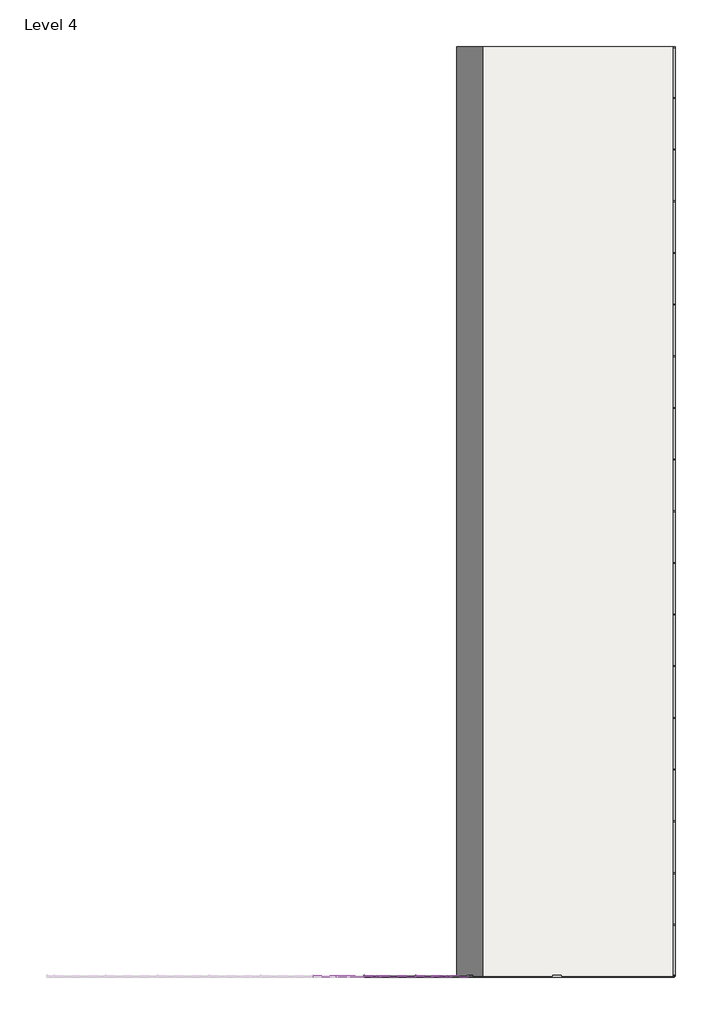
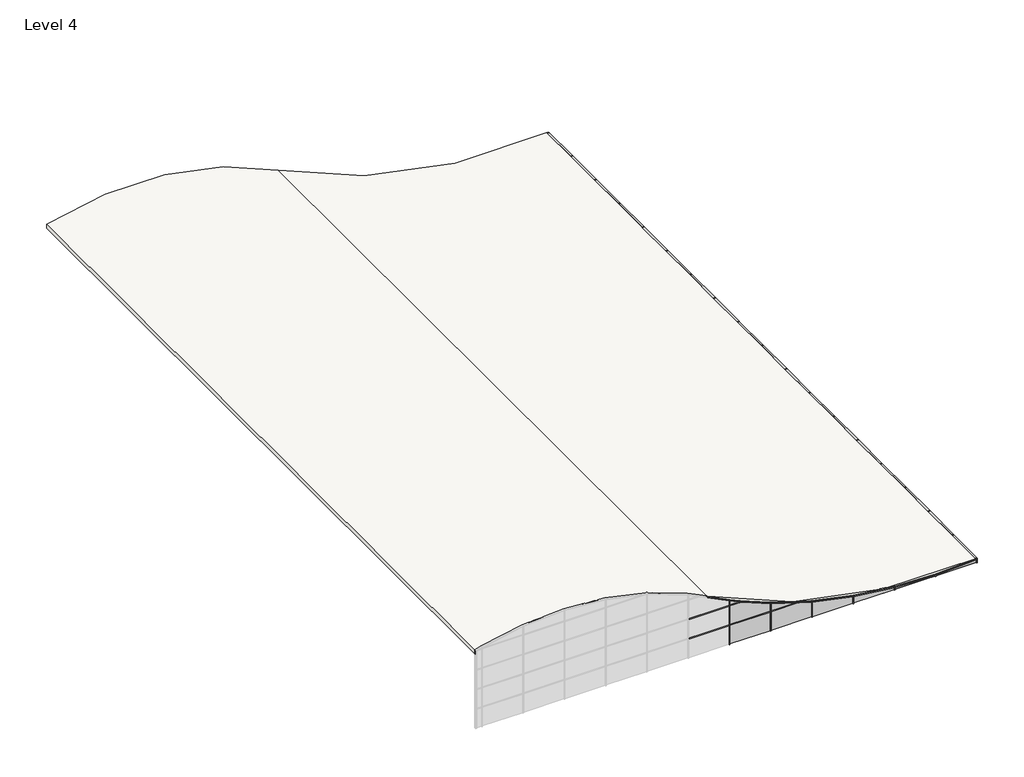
# One storey, part 2 of 2: 61 members, 27 plates, 1 roof.
"""IFC4 building model written with IfcOpenShell, lengths in millimetres."""

from ifc_helpers import new_model, si_unit, frame, origin, place, context, project, spatial, polyline, circle_curve, transform, mapped, element, save
from ifc_brep_helpers import plane_surface, cylinder_surface, revolved_surface, advanced_brep
from components import member_8cef0660, member_75d1e245, member_82905deb, member_d9b0607a, member_db480205, member_3c3dc66a, member_ae34c576, member_833d9b54, member_7de1c936, member_65e1c58e, member_1d39c7df, member_5c1e86ec, member_c276d55d, member_7038c49c, member_825d3a4a, member_d5828eb2, member_7d3a6d7c, member_f68024c3, member_d3fc6e22, member_1f5ccab2, member_d3a21094, member_776f6fe3, member_68a4e864, member_6624d9f6, system_panel_solid_4f3844da, system_panel_solid_7f69ba4b, system_panel_solid_edf877d0, system_panel_solid_6933b906, system_panel_solid_e029ac34, system_panel_solid_976d1366, system_panel_solid_c230f567, system_panel_solid_765c229f, system_panel_solid_cf835204, system_panel_solid_52bbc436, system_panel_solid_ebf822bd

model = new_model("IFC4")

# Units and contexts
model_context = context("Model", 3, world=origin())
ifc_project = project(units=[si_unit("LENGTHUNIT", "METRE", prefix="MILLI")], contexts=[model_context])

# Site, building, storey
site = spatial("IfcSite", under=ifc_project)
building = spatial("IfcBuilding", under=site)
storey = spatial("IfcBuildingStorey", under=building, Name="Level 4", Elevation=9144.0)

# Members
placement = place(None, origin())
member_shape = member_8cef0660(model_context)
element("IfcMember", 1, ObjectType="Rectangular Mullion : 2.5\" x 5\" rectangular", at=placement, inside=storey, context=model_context, shape_type="MappedRepresentation", body=[
    mapped(member_shape, transform((-25323.6011466, -42761.5611797, 10668.0), x_axis=(0.0, 0.0, 1.0), y_axis=(0.0, -1.0, 0.0), z_axis=(1.0, 0.0, 0.0))),
])
element("IfcMember", 2, ObjectType="Rectangular Mullion : 2.5\" x 5\" rectangular", at=placement, inside=storey, context=model_context, shape_type="MappedRepresentation", body=[
    mapped(member_shape, transform((-22275.6011466, -42761.5611797, 10668.0), x_axis=(0.0, 0.0, 1.0), y_axis=(0.0, -1.0, 0.0), z_axis=(1.0, 0.0, 0.0))),
])
element("IfcMember", 3, ObjectType="Rectangular Mullion : 2.5\" x 5\" rectangular", at=placement, inside=storey, context=model_context, shape_type="MappedRepresentation", body=[
    mapped(member_shape, transform((-25323.6011466, -42761.5611797, 12192.0), x_axis=(0.0, 0.0, 1.0), y_axis=(0.0, -1.0, 0.0), z_axis=(1.0, 0.0, 0.0))),
])
member_2_shape = member_75d1e245(model_context)
element("IfcMember", 4, ObjectType="Rectangular Mullion : 2.5\" x 5\" rectangular", at=placement, inside=storey, context=model_context, shape_type="MappedRepresentation", body=[
    mapped(member_2_shape, transform((-7003.8511466, -39713.5611797, 9448.8), x_axis=(0.0, -1.0, 0.0), y_axis=(1.0, 0.0, 0.0), z_axis=(0.0, 0.0, 1.0))),
])
element("IfcMember", 5, ObjectType="Rectangular Mullion : 2.5\" x 5\" rectangular", at=placement, inside=storey, context=model_context, shape_type="MappedRepresentation", body=[
    mapped(member_2_shape, transform((-7003.8511466, -36665.5611797, 9448.8), x_axis=(0.0, -1.0, 0.0), y_axis=(1.0, 0.0, 0.0), z_axis=(0.0, 0.0, 1.0))),
])
element("IfcMember", 6, ObjectType="Rectangular Mullion : 2.5\" x 5\" rectangular", at=placement, inside=storey, context=model_context, shape_type="MappedRepresentation", body=[
    mapped(member_2_shape, transform((-7003.8511466, -33617.5611797, 9448.8), x_axis=(0.0, -1.0, 0.0), y_axis=(1.0, 0.0, 0.0), z_axis=(0.0, 0.0, 1.0))),
])
element("IfcMember", 7, ObjectType="Rectangular Mullion : 2.5\" x 5\" rectangular", at=placement, inside=storey, context=model_context, shape_type="MappedRepresentation", body=[
    mapped(member_2_shape, transform((-7003.8511466, -27521.5611797, 9448.8), x_axis=(0.0, -1.0, 0.0), y_axis=(1.0, 0.0, 0.0), z_axis=(0.0, 0.0, 1.0))),
])
element("IfcMember", 8, ObjectType="Rectangular Mullion : 2.5\" x 5\" rectangular", at=placement, inside=storey, context=model_context, shape_type="MappedRepresentation", body=[
    mapped(member_2_shape, transform((-7003.8511466, -30569.5611797, 9448.8), x_axis=(0.0, -1.0, 0.0), y_axis=(1.0, 0.0, 0.0), z_axis=(0.0, 0.0, 1.0))),
])
element("IfcMember", 9, ObjectType="Rectangular Mullion : 2.5\" x 5\" rectangular", at=placement, inside=storey, context=model_context, shape_type="MappedRepresentation", body=[
    mapped(member_2_shape, transform((-7003.8511466, -24473.5611797, 9448.8), x_axis=(0.0, -1.0, 0.0), y_axis=(1.0, 0.0, 0.0), z_axis=(0.0, 0.0, 1.0))),
])
element("IfcMember", 10, ObjectType="Rectangular Mullion : 2.5\" x 5\" rectangular", at=placement, inside=storey, context=model_context, shape_type="MappedRepresentation", body=[
    mapped(member_2_shape, transform((-7003.8511466, -18377.5611797, 9448.8), x_axis=(0.0, -1.0, 0.0), y_axis=(1.0, 0.0, 0.0), z_axis=(0.0, 0.0, 1.0))),
])
element("IfcMember", 11, ObjectType="Rectangular Mullion : 2.5\" x 5\" rectangular", at=placement, inside=storey, context=model_context, shape_type="MappedRepresentation", body=[
    mapped(member_2_shape, transform((-7003.8511466, 2958.4388203, 9448.8), x_axis=(0.0, -1.0, 0.0), y_axis=(1.0, 0.0, 0.0), z_axis=(0.0, 0.0, 1.0))),
])
element("IfcMember", 12, ObjectType="Rectangular Mullion : 2.5\" x 5\" rectangular", at=placement, inside=storey, context=model_context, shape_type="MappedRepresentation", body=[
    mapped(member_2_shape, transform((-7003.8511466, 6006.4388203, 9448.8), x_axis=(0.0, -1.0, 0.0), y_axis=(1.0, 0.0, 0.0), z_axis=(0.0, 0.0, 1.0))),
])
element("IfcMember", 13, ObjectType="Rectangular Mullion : 2.5\" x 5\" rectangular", at=placement, inside=storey, context=model_context, shape_type="MappedRepresentation", body=[
    mapped(member_2_shape, transform((-7003.8511466, -15329.5611797, 9448.8), x_axis=(0.0, -1.0, 0.0), y_axis=(1.0, 0.0, 0.0), z_axis=(0.0, 0.0, 1.0))),
])
element("IfcMember", 14, ObjectType="Rectangular Mullion : 2.5\" x 5\" rectangular", at=placement, inside=storey, context=model_context, shape_type="MappedRepresentation", body=[
    mapped(member_2_shape, transform((-7003.8511466, -12281.5611797, 9448.8), x_axis=(0.0, -1.0, 0.0), y_axis=(1.0, 0.0, 0.0), z_axis=(0.0, 0.0, 1.0))),
])
element("IfcMember", 15, ObjectType="Rectangular Mullion : 2.5\" x 5\" rectangular", at=placement, inside=storey, context=model_context, shape_type="MappedRepresentation", body=[
    mapped(member_2_shape, transform((-7003.8511466, -6185.5611797, 9448.8), x_axis=(0.0, -1.0, 0.0), y_axis=(1.0, 0.0, 0.0), z_axis=(0.0, 0.0, 1.0))),
])
element("IfcMember", 16, ObjectType="Rectangular Mullion : 2.5\" x 5\" rectangular", at=placement, inside=storey, context=model_context, shape_type="MappedRepresentation", body=[
    mapped(member_2_shape, transform((-7003.8511466, -21425.5611797, 9448.8), x_axis=(0.0, -1.0, 0.0), y_axis=(1.0, 0.0, 0.0), z_axis=(0.0, 0.0, 1.0))),
])
element("IfcMember", 17, ObjectType="Rectangular Mullion : 2.5\" x 5\" rectangular", at=placement, inside=storey, context=model_context, shape_type="MappedRepresentation", body=[
    mapped(member_2_shape, transform((-7003.8511466, -89.5611797, 9448.8), x_axis=(0.0, -1.0, 0.0), y_axis=(1.0, 0.0, 0.0), z_axis=(0.0, 0.0, 1.0))),
])
element("IfcMember", 18, ObjectType="Rectangular Mullion : 2.5\" x 5\" rectangular", at=placement, inside=storey, context=model_context, shape_type="MappedRepresentation", body=[
    mapped(member_2_shape, transform((-7003.8511466, -3137.5611797, 9448.8), x_axis=(0.0, -1.0, 0.0), y_axis=(1.0, 0.0, 0.0), z_axis=(0.0, 0.0, 1.0))),
])
element("IfcMember", 19, ObjectType="Rectangular Mullion : 2.5\" x 5\" rectangular", at=placement, inside=storey, context=model_context, shape_type="MappedRepresentation", body=[
    mapped(member_2_shape, transform((-7003.8511466, -9233.5611797, 9448.8), x_axis=(0.0, -1.0, 0.0), y_axis=(1.0, 0.0, 0.0), z_axis=(0.0, 0.0, 1.0))),
])
element("IfcMember", 20, ObjectType="Rectangular Mullion : 2.5\" x 5\" rectangular", at=placement, inside=storey, context=model_context, shape_type="MappedRepresentation", body=[
    mapped(member_2_shape, transform((-7003.8511466, 9054.4388203, 9448.8), x_axis=(0.0, -1.0, 0.0), y_axis=(1.0, 0.0, 0.0), z_axis=(0.0, 0.0, 1.0))),
])
member_3_shape = member_82905deb(model_context)
element("IfcMember", 21, ObjectType="Rectangular Mullion : 2.5\" x 5\" rectangular", at=placement, inside=storey, context=model_context, shape_type="MappedRepresentation", body=[
    mapped(member_3_shape, transform((-25291.8511466, -42761.5611797, 12192.0), x_axis=(-1.0, 0.0, 0.0), y_axis=(0.0, -1.0, 0.0), z_axis=(0.0, 0.0, 1.0))),
])
element("IfcMember", 22, ObjectType="Rectangular Mullion : 2.5\" x 5\" rectangular", at=placement, inside=storey, context=model_context, shape_type="MappedRepresentation", body=[
    mapped(member_3_shape, transform((-25291.8511466, -42761.5611797, 10668.0), x_axis=(-1.0, 0.0, 0.0), y_axis=(0.0, -1.0, 0.0), z_axis=(0.0, 0.0, 1.0))),
])
element("IfcMember", 23, ObjectType="Rectangular Mullion : 2.5\" x 5\" rectangular", at=placement, inside=storey, context=model_context, shape_type="MappedRepresentation", body=[
    mapped(member_3_shape, transform((-22243.8511466, -42761.5611797, 10668.0), x_axis=(-1.0, 0.0, 0.0), y_axis=(0.0, -1.0, 0.0), z_axis=(0.0, 0.0, 1.0))),
])
member_4_shape = member_d9b0607a(model_context)
element("IfcMember", 24, ObjectType="Rectangular Mullion : 2.5\" x 5\" rectangular", at=placement, inside=storey, context=model_context, shape_type="MappedRepresentation", body=[
    mapped(member_4_shape, transform((-7003.8511466, -39745.3111797, 9448.8), x_axis=(0.0, 0.0, 1.0), y_axis=(1.0, 0.0, 0.0), z_axis=(0.0, 1.0, 0.0))),
])
element("IfcMember", 25, ObjectType="Rectangular Mullion : 2.5\" x 5\" rectangular", at=placement, inside=storey, context=model_context, shape_type="MappedRepresentation", body=[
    mapped(member_4_shape, transform((-7003.8511466, 12038.9388203, 9448.8), x_axis=(0.0, 0.0, 1.0), y_axis=(1.0, 0.0, 0.0), z_axis=(0.0, 1.0, 0.0))),
])
member_5_shape = member_db480205(model_context)
element("IfcMember", 26, ObjectType="Rectangular Mullion : 2.5\" x 5\" rectangular", at=placement, inside=storey, context=model_context, shape_type="MappedRepresentation", body=[
    mapped(member_5_shape, transform((-7003.8511466, -36697.3111797, 9448.8), x_axis=(0.0, 0.0, 1.0), y_axis=(1.0, 0.0, 0.0), z_axis=(0.0, 1.0, 0.0))),
])
element("IfcMember", 27, ObjectType="Rectangular Mullion : 2.5\" x 5\" rectangular", at=placement, inside=storey, context=model_context, shape_type="MappedRepresentation", body=[
    mapped(member_5_shape, transform((-7003.8511466, -33649.3111797, 9448.8), x_axis=(0.0, 0.0, 1.0), y_axis=(1.0, 0.0, 0.0), z_axis=(0.0, 1.0, 0.0))),
])
element("IfcMember", 28, ObjectType="Rectangular Mullion : 2.5\" x 5\" rectangular", at=placement, inside=storey, context=model_context, shape_type="MappedRepresentation", body=[
    mapped(member_5_shape, transform((-7003.8511466, -30601.3111797, 9448.8), x_axis=(0.0, 0.0, 1.0), y_axis=(1.0, 0.0, 0.0), z_axis=(0.0, 1.0, 0.0))),
])
element("IfcMember", 29, ObjectType="Rectangular Mullion : 2.5\" x 5\" rectangular", at=placement, inside=storey, context=model_context, shape_type="MappedRepresentation", body=[
    mapped(member_5_shape, transform((-7003.8511466, -27553.3111797, 9448.8), x_axis=(0.0, 0.0, 1.0), y_axis=(1.0, 0.0, 0.0), z_axis=(0.0, 1.0, 0.0))),
])
element("IfcMember", 30, ObjectType="Rectangular Mullion : 2.5\" x 5\" rectangular", at=placement, inside=storey, context=model_context, shape_type="MappedRepresentation", body=[
    mapped(member_5_shape, transform((-7003.8511466, -24505.3111797, 9448.8), x_axis=(0.0, 0.0, 1.0), y_axis=(1.0, 0.0, 0.0), z_axis=(0.0, 1.0, 0.0))),
])
element("IfcMember", 31, ObjectType="Rectangular Mullion : 2.5\" x 5\" rectangular", at=placement, inside=storey, context=model_context, shape_type="MappedRepresentation", body=[
    mapped(member_5_shape, transform((-7003.8511466, -21457.3111797, 9448.8), x_axis=(0.0, 0.0, 1.0), y_axis=(1.0, 0.0, 0.0), z_axis=(0.0, 1.0, 0.0))),
])
element("IfcMember", 32, ObjectType="Rectangular Mullion : 2.5\" x 5\" rectangular", at=placement, inside=storey, context=model_context, shape_type="MappedRepresentation", body=[
    mapped(member_5_shape, transform((-7003.8511466, -18409.3111797, 9448.8), x_axis=(0.0, 0.0, 1.0), y_axis=(1.0, 0.0, 0.0), z_axis=(0.0, 1.0, 0.0))),
])
element("IfcMember", 33, ObjectType="Rectangular Mullion : 2.5\" x 5\" rectangular", at=placement, inside=storey, context=model_context, shape_type="MappedRepresentation", body=[
    mapped(member_5_shape, transform((-7003.8511466, -15361.3111797, 9448.8), x_axis=(0.0, 0.0, 1.0), y_axis=(1.0, 0.0, 0.0), z_axis=(0.0, 1.0, 0.0))),
])
element("IfcMember", 34, ObjectType="Rectangular Mullion : 2.5\" x 5\" rectangular", at=placement, inside=storey, context=model_context, shape_type="MappedRepresentation", body=[
    mapped(member_5_shape, transform((-7003.8511466, -12313.3111797, 9448.8), x_axis=(0.0, 0.0, 1.0), y_axis=(1.0, 0.0, 0.0), z_axis=(0.0, 1.0, 0.0))),
])
element("IfcMember", 35, ObjectType="Rectangular Mullion : 2.5\" x 5\" rectangular", at=placement, inside=storey, context=model_context, shape_type="MappedRepresentation", body=[
    mapped(member_5_shape, transform((-7003.8511466, -9265.3111797, 9448.8), x_axis=(0.0, 0.0, 1.0), y_axis=(1.0, 0.0, 0.0), z_axis=(0.0, 1.0, 0.0))),
])
element("IfcMember", 36, ObjectType="Rectangular Mullion : 2.5\" x 5\" rectangular", at=placement, inside=storey, context=model_context, shape_type="MappedRepresentation", body=[
    mapped(member_5_shape, transform((-7003.8511466, -6217.3111797, 9448.8), x_axis=(0.0, 0.0, 1.0), y_axis=(1.0, 0.0, 0.0), z_axis=(0.0, 1.0, 0.0))),
])
element("IfcMember", 37, ObjectType="Rectangular Mullion : 2.5\" x 5\" rectangular", at=placement, inside=storey, context=model_context, shape_type="MappedRepresentation", body=[
    mapped(member_5_shape, transform((-7003.8511466, -3169.3111797, 9448.8), x_axis=(0.0, 0.0, 1.0), y_axis=(1.0, 0.0, 0.0), z_axis=(0.0, 1.0, 0.0))),
])
element("IfcMember", 38, ObjectType="Rectangular Mullion : 2.5\" x 5\" rectangular", at=placement, inside=storey, context=model_context, shape_type="MappedRepresentation", body=[
    mapped(member_5_shape, transform((-7003.8511466, -121.3111797, 9448.8), x_axis=(0.0, 0.0, 1.0), y_axis=(1.0, 0.0, 0.0), z_axis=(0.0, 1.0, 0.0))),
])
element("IfcMember", 39, ObjectType="Rectangular Mullion : 2.5\" x 5\" rectangular", at=placement, inside=storey, context=model_context, shape_type="MappedRepresentation", body=[
    mapped(member_5_shape, transform((-7003.8511466, 2926.6888203, 9448.8), x_axis=(0.0, 0.0, 1.0), y_axis=(1.0, 0.0, 0.0), z_axis=(0.0, 1.0, 0.0))),
])
element("IfcMember", 40, ObjectType="Rectangular Mullion : 2.5\" x 5\" rectangular", at=placement, inside=storey, context=model_context, shape_type="MappedRepresentation", body=[
    mapped(member_5_shape, transform((-7003.8511466, 5974.6888203, 9448.8), x_axis=(0.0, 0.0, 1.0), y_axis=(1.0, 0.0, 0.0), z_axis=(0.0, 1.0, 0.0))),
])
element("IfcMember", 41, ObjectType="Rectangular Mullion : 2.5\" x 5\" rectangular", at=placement, inside=storey, context=model_context, shape_type="MappedRepresentation", body=[
    mapped(member_5_shape, transform((-7003.8511466, 9022.6888203, 9448.8), x_axis=(0.0, 0.0, 1.0), y_axis=(1.0, 0.0, 0.0), z_axis=(0.0, 1.0, 0.0))),
])
member_6_shape = member_3c3dc66a(model_context)
element("IfcMember", 42, ObjectType="Rectangular Mullion : 2.5\" x 5\" rectangular", at=placement, inside=storey, context=model_context, shape_type="MappedRepresentation", body=[
    mapped(member_6_shape, transform((-7003.8511466, 12102.4388203, 9144.0), x_axis=(0.0, 1.0, 0.0), y_axis=(1.0, 0.0, 0.0), z_axis=(0.0, 0.0, -1.0))),
])
element("IfcMember", 43, ObjectType="Rectangular Mullion : 2.5\" x 5\" rectangular", at=placement, inside=storey, context=model_context, shape_type="MappedRepresentation", body=[
    mapped(member_6_shape, transform((-7003.8511466, -42761.5611797, 9448.8), x_axis=(0.0, -1.0, 0.0), y_axis=(1.0, 0.0, 0.0), z_axis=(0.0, 0.0, 1.0))),
])
member_7_shape = member_ae34c576(model_context)
element("IfcMember", 44, ObjectType="Rectangular Mullion : 2.5\" x 5\" rectangular", at=placement, inside=storey, context=model_context, shape_type="MappedRepresentation", body=[
    mapped(member_7_shape, transform((-25291.8511466, -42761.5611797, 12622.3839836), x_axis=(-1.0, 0.0, 0.0), y_axis=(0.0, -1.0, 0.0), z_axis=(0.0, 0.0, 1.0))),
])
member_8_shape = member_833d9b54(model_context)
element("IfcMember", 45, ObjectType="Rectangular Mullion : 2.5\" x 5\" rectangular", at=placement, inside=storey, context=model_context, shape_type="MappedRepresentation", body=[
    mapped(member_8_shape, transform((-22243.8511466, -42761.5611797, 11354.2305428), x_axis=(-1.0, 0.0, 0.0), y_axis=(0.0, -1.0, 0.0), z_axis=(0.0, 0.0, 1.0))),
])
member_9_shape = member_7de1c936(model_context)
element("IfcMember", 46, ObjectType="Rectangular Mullion : 2.5\" x 5\" rectangular", at=placement, inside=storey, context=model_context, shape_type="MappedRepresentation", body=[
    mapped(member_9_shape, transform((-19195.8511466, -42761.5611797, 10408.117617), x_axis=(-1.0, 0.0, 0.0), y_axis=(0.0, -1.0, 0.0), z_axis=(0.0, 0.0, 1.0))),
])
member_10_shape = member_65e1c58e(model_context)
element("IfcMember", 47, ObjectType="Rectangular Mullion : 2.5\" x 5\" rectangular", at=placement, inside=storey, context=model_context, shape_type="MappedRepresentation", body=[
    mapped(member_10_shape, transform((-13099.8511466, -42761.5611797, 9385.4886946), x_axis=(-1.0, 0.0, 0.0), y_axis=(0.0, -1.0, 0.0), z_axis=(0.0, 0.0, 1.0))),
])
member_11_shape = member_1d39c7df(model_context)
element("IfcMember", 48, ObjectType="Rectangular Mullion : 2.5\" x 5\" rectangular", at=placement, inside=storey, context=model_context, shape_type="MappedRepresentation", body=[
    mapped(member_11_shape, transform((-10051.8511466, -42761.5611797, 9283.413672), x_axis=(-1.0, 0.0, 0.0), y_axis=(0.0, -1.0, 0.0), z_axis=(0.0, 0.0, 1.0))),
])
member_12_shape = member_5c1e86ec(model_context)
element("IfcMember", 49, ObjectType="Rectangular Mullion : 2.5\" x 5\" rectangular", at=placement, inside=storey, context=model_context, shape_type="MappedRepresentation", body=[
    mapped(member_12_shape, transform((-16147.8511466, -42761.5611797, 9757.4106051), x_axis=(-1.0, 0.0, 0.0), y_axis=(0.0, -1.0, 0.0), z_axis=(0.0, 0.0, 1.0))),
])
member_13_shape = member_c276d55d(model_context)
element("IfcMember", 50, ObjectType="Rectangular Mullion : 2.5\" x 5\" rectangular", at=placement, inside=storey, context=model_context, shape_type="MappedRepresentation", body=[
    mapped(member_13_shape, transform((-7003.8511466, -42761.5611797, 9448.8), x_axis=(-0.054180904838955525, 0.0, 0.998531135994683), y_axis=(0.0, -1.0, 0.0), z_axis=(0.9985311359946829, 0.0, 0.05418090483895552))),
])
member_14_shape = member_7038c49c(model_context)
element("IfcMember", 51, ObjectType="Rectangular Mullion : 2.5\" x 5\" rectangular", at=placement, inside=storey, context=model_context, shape_type="MappedRepresentation", body=[
    mapped(member_14_shape, transform((-24345.386327, -42761.5611797, 12192.0), x_axis=(0.4139406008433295, 0.0, 0.9103038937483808), y_axis=(0.0, -1.0, 0.0), z_axis=(0.9103038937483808, 0.0, -0.4139406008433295))),
])
member_15_shape = member_825d3a4a(model_context)
element("IfcMember", 52, ObjectType="Rectangular Mullion : 2.5\" x 5\" rectangular", at=placement, inside=storey, context=model_context, shape_type="MappedRepresentation", body=[
    mapped(member_15_shape, transform((-20137.9761437, -42761.5611797, 10668.0), x_axis=(0.30982967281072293, 0.0, 0.9507920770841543), y_axis=(0.0, -1.0, 0.0), z_axis=(0.9507920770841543, 0.0, -0.30982967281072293))),
])
member_16_shape = member_d5828eb2(model_context)
element("IfcMember", 53, ObjectType="Rectangular Mullion : 2.5\" x 5\" rectangular", at=placement, inside=storey, context=model_context, shape_type="MappedRepresentation", body=[
    mapped(member_16_shape, transform((-25291.8511466, -42761.5611797, 12622.3839836), x_axis=(0.45088998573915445, 0.0, 0.8925795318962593), y_axis=(0.0, -1.0, 0.0), z_axis=(0.8925795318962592, 0.0, -0.4508899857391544))),
])
member_17_shape = member_7d3a6d7c(model_context)
element("IfcMember", 54, ObjectType="Rectangular Mullion : 2.5\" x 5\" rectangular", at=placement, inside=storey, context=model_context, shape_type="MappedRepresentation", body=[
    mapped(member_17_shape, transform((-22243.8511466, -42761.5611797, 11354.2305428), x_axis=(0.3703064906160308, 0.0, 0.9289096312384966), y_axis=(0.0, -1.0, 0.0), z_axis=(0.9289096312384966, 0.0, -0.3703064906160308))),
])
member_18_shape = member_f68024c3(model_context)
element("IfcMember", 55, ObjectType="Rectangular Mullion : 2.5\" x 5\" rectangular", at=placement, inside=storey, context=model_context, shape_type="MappedRepresentation", body=[
    mapped(member_18_shape, transform((-19195.8511466, -42761.5611797, 10408.117617), x_axis=(0.2659155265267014, 0.0, 0.9639963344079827), y_axis=(0.0, -1.0, 0.0), z_axis=(0.9639963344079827, 0.0, -0.2659155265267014))),
])
member_19_shape = member_d3fc6e22(model_context)
element("IfcMember", 56, ObjectType="Rectangular Mullion : 2.5\" x 5\" rectangular", at=placement, inside=storey, context=model_context, shape_type="MappedRepresentation", body=[
    mapped(member_19_shape, transform((-16147.8511466, -42761.5611797, 9757.4106051), x_axis=(0.20878178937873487, 0.0, 0.9779622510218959), y_axis=(0.0, -1.0, 0.0), z_axis=(0.9779622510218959, 0.0, -0.20878178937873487))),
])
member_20_shape = member_1f5ccab2(model_context)
element("IfcMember", 57, ObjectType="Rectangular Mullion : 2.5\" x 5\" rectangular", at=placement, inside=storey, context=model_context, shape_type="MappedRepresentation", body=[
    mapped(member_20_shape, transform((-13099.8511466, -42761.5611797, 9385.4886946), x_axis=(0.12112323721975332, 0.0, 0.9926374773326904), y_axis=(0.0, -1.0, 0.0), z_axis=(0.9926374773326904, 0.0, -0.12112323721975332))),
])
member_21_shape = member_d3a21094(model_context)
element("IfcMember", 58, ObjectType="Rectangular Mullion : 2.5\" x 5\" rectangular", at=placement, inside=storey, context=model_context, shape_type="MappedRepresentation", body=[
    mapped(member_21_shape, transform((-10051.8511466, -42761.5611797, 9283.413672), x_axis=(0.03347041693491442, 0.0, 0.9994397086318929), y_axis=(0.0, -1.0, 0.0), z_axis=(0.9994397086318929, 0.0, -0.03347041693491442))),
])
member_22_shape = member_776f6fe3(model_context)
element("IfcMember", 59, ObjectType="Rectangular Mullion : 2.5\" x 5\" rectangular", at=placement, inside=storey, context=model_context, shape_type="MappedRepresentation", body=[
    mapped(member_22_shape, transform((-20137.9761437, -42761.5611797, 10668.0), x_axis=(0.0, 0.0, 1.0), y_axis=(0.0, -1.0, 0.0), z_axis=(1.0, 0.0, 0.0))),
])
member_23_shape = member_68a4e864(model_context)
element("IfcMember", 60, ObjectType="Rectangular Mullion : 2.5\" x 5\" rectangular", at=placement, inside=storey, context=model_context, shape_type="MappedRepresentation", body=[
    mapped(member_23_shape, transform((-24345.386327, -42761.5611797, 12192.0), x_axis=(0.0, 0.0, 1.0), y_axis=(0.0, -1.0, 0.0), z_axis=(1.0, 0.0, 0.0))),
])
member_24_shape = member_6624d9f6(model_context)
element("IfcMember", 61, ObjectType="Rectangular Mullion : 2.5\" x 5\" rectangular", at=placement, inside=storey, context=model_context, shape_type="MappedRepresentation", body=[
    mapped(member_24_shape, transform((-7003.8511466, -42761.5611797, 9144.0), x_axis=(1.0, 0.0, 0.0), y_axis=(0.0, -1.0, 0.0), z_axis=(0.0, 0.0, -1.0))),
])

# Plates
system_panel_solid_shape = system_panel_solid_4f3844da(model_context)
element("IfcPlate", 62, ObjectType="System Panel : Solid", at=placement, inside=storey, context=model_context, shape_type="MappedRepresentation", body=[
    mapped(system_panel_solid_shape, transform((-23767.8511466, -42761.5611797, 9175.75), x_axis=(-1.0, 0.0, 0.0), y_axis=(0.0, -1.0, 0.0), z_axis=(0.0, 0.0, 1.0))),
])
system_panel_solid_2_shape = system_panel_solid_7f69ba4b(model_context)
element("IfcPlate", 63, ObjectType="System Panel : Solid", at=placement, inside=storey, context=model_context, shape_type="MappedRepresentation", body=[
    mapped(system_panel_solid_2_shape, transform((-7003.8511466, 10562.5638203, 9175.75), x_axis=(0.0, -1.0, 0.0), y_axis=(1.0, 0.0, 0.0), z_axis=(0.0, 0.0, 1.0))),
])
element("IfcPlate", 64, ObjectType="System Panel : Solid", at=placement, inside=storey, context=model_context, shape_type="MappedRepresentation", body=[
    mapped(system_panel_solid_2_shape, transform((-7003.8511466, -41221.6861797, 9175.75), x_axis=(0.0, -1.0, 0.0), y_axis=(1.0, 0.0, 0.0), z_axis=(0.0, 0.0, 1.0))),
])
system_panel_solid_3_shape = system_panel_solid_edf877d0(model_context)
element("IfcPlate", 65, ObjectType="System Panel : Solid", at=placement, inside=storey, context=model_context, shape_type="MappedRepresentation", body=[
    mapped(system_panel_solid_3_shape, transform((-7003.8511466, 7530.4388203, 9175.75), x_axis=(0.0, -1.0, 0.0), y_axis=(1.0, 0.0, 0.0), z_axis=(0.0, 0.0, 1.0))),
])
element("IfcPlate", 66, ObjectType="System Panel : Solid", at=placement, inside=storey, context=model_context, shape_type="MappedRepresentation", body=[
    mapped(system_panel_solid_3_shape, transform((-7003.8511466, 4482.4388203, 9175.75), x_axis=(0.0, -1.0, 0.0), y_axis=(1.0, 0.0, 0.0), z_axis=(0.0, 0.0, 1.0))),
])
element("IfcPlate", 67, ObjectType="System Panel : Solid", at=placement, inside=storey, context=model_context, shape_type="MappedRepresentation", body=[
    mapped(system_panel_solid_3_shape, transform((-7003.8511466, 1434.4388203, 9175.75), x_axis=(0.0, -1.0, 0.0), y_axis=(1.0, 0.0, 0.0), z_axis=(0.0, 0.0, 1.0))),
])
element("IfcPlate", 68, ObjectType="System Panel : Solid", at=placement, inside=storey, context=model_context, shape_type="MappedRepresentation", body=[
    mapped(system_panel_solid_3_shape, transform((-7003.8511466, -1613.5611797, 9175.75), x_axis=(0.0, -1.0, 0.0), y_axis=(1.0, 0.0, 0.0), z_axis=(0.0, 0.0, 1.0))),
])
element("IfcPlate", 69, ObjectType="System Panel : Solid", at=placement, inside=storey, context=model_context, shape_type="MappedRepresentation", body=[
    mapped(system_panel_solid_3_shape, transform((-7003.8511466, -4661.5611797, 9175.75), x_axis=(0.0, -1.0, 0.0), y_axis=(1.0, 0.0, 0.0), z_axis=(0.0, 0.0, 1.0))),
])
element("IfcPlate", 70, ObjectType="System Panel : Solid", at=placement, inside=storey, context=model_context, shape_type="MappedRepresentation", body=[
    mapped(system_panel_solid_3_shape, transform((-7003.8511466, -7709.5611797, 9175.75), x_axis=(0.0, -1.0, 0.0), y_axis=(1.0, 0.0, 0.0), z_axis=(0.0, 0.0, 1.0))),
])
element("IfcPlate", 71, ObjectType="System Panel : Solid", at=placement, inside=storey, context=model_context, shape_type="MappedRepresentation", body=[
    mapped(system_panel_solid_3_shape, transform((-7003.8511466, -10757.5611797, 9175.75), x_axis=(0.0, -1.0, 0.0), y_axis=(1.0, 0.0, 0.0), z_axis=(0.0, 0.0, 1.0))),
])
element("IfcPlate", 72, ObjectType="System Panel : Solid", at=placement, inside=storey, context=model_context, shape_type="MappedRepresentation", body=[
    mapped(system_panel_solid_3_shape, transform((-7003.8511466, -13805.5611797, 9175.75), x_axis=(0.0, -1.0, 0.0), y_axis=(1.0, 0.0, 0.0), z_axis=(0.0, 0.0, 1.0))),
])
element("IfcPlate", 73, ObjectType="System Panel : Solid", at=placement, inside=storey, context=model_context, shape_type="MappedRepresentation", body=[
    mapped(system_panel_solid_3_shape, transform((-7003.8511466, -16853.5611797, 9175.75), x_axis=(0.0, -1.0, 0.0), y_axis=(1.0, 0.0, 0.0), z_axis=(0.0, 0.0, 1.0))),
])
element("IfcPlate", 74, ObjectType="System Panel : Solid", at=placement, inside=storey, context=model_context, shape_type="MappedRepresentation", body=[
    mapped(system_panel_solid_3_shape, transform((-7003.8511466, -19901.5611797, 9175.75), x_axis=(0.0, -1.0, 0.0), y_axis=(1.0, 0.0, 0.0), z_axis=(0.0, 0.0, 1.0))),
])
element("IfcPlate", 75, ObjectType="System Panel : Solid", at=placement, inside=storey, context=model_context, shape_type="MappedRepresentation", body=[
    mapped(system_panel_solid_3_shape, transform((-7003.8511466, -22949.5611797, 9175.75), x_axis=(0.0, -1.0, 0.0), y_axis=(1.0, 0.0, 0.0), z_axis=(0.0, 0.0, 1.0))),
])
element("IfcPlate", 76, ObjectType="System Panel : Solid", at=placement, inside=storey, context=model_context, shape_type="MappedRepresentation", body=[
    mapped(system_panel_solid_3_shape, transform((-7003.8511466, -25997.5611797, 9175.75), x_axis=(0.0, -1.0, 0.0), y_axis=(1.0, 0.0, 0.0), z_axis=(0.0, 0.0, 1.0))),
])
element("IfcPlate", 77, ObjectType="System Panel : Solid", at=placement, inside=storey, context=model_context, shape_type="MappedRepresentation", body=[
    mapped(system_panel_solid_3_shape, transform((-7003.8511466, -29045.5611797, 9175.75), x_axis=(0.0, -1.0, 0.0), y_axis=(1.0, 0.0, 0.0), z_axis=(0.0, 0.0, 1.0))),
])
element("IfcPlate", 78, ObjectType="System Panel : Solid", at=placement, inside=storey, context=model_context, shape_type="MappedRepresentation", body=[
    mapped(system_panel_solid_3_shape, transform((-7003.8511466, -32093.5611797, 9175.75), x_axis=(0.0, -1.0, 0.0), y_axis=(1.0, 0.0, 0.0), z_axis=(0.0, 0.0, 1.0))),
])
element("IfcPlate", 79, ObjectType="System Panel : Solid", at=placement, inside=storey, context=model_context, shape_type="MappedRepresentation", body=[
    mapped(system_panel_solid_3_shape, transform((-7003.8511466, -35141.5611797, 9175.75), x_axis=(0.0, -1.0, 0.0), y_axis=(1.0, 0.0, 0.0), z_axis=(0.0, 0.0, 1.0))),
])
element("IfcPlate", 80, ObjectType="System Panel : Solid", at=placement, inside=storey, context=model_context, shape_type="MappedRepresentation", body=[
    mapped(system_panel_solid_3_shape, transform((-7003.8511466, -38189.5611797, 9175.75), x_axis=(0.0, -1.0, 0.0), y_axis=(1.0, 0.0, 0.0), z_axis=(0.0, 0.0, 1.0))),
])
system_panel_solid_4_shape = system_panel_solid_6933b906(model_context)
element("IfcPlate", 81, ObjectType="System Panel : Solid", at=placement, inside=storey, context=model_context, shape_type="MappedRepresentation", body=[
    mapped(system_panel_solid_4_shape, transform((-8543.7261466, -42761.5611797, 9175.75), x_axis=(-1.0, 0.0, 0.0), y_axis=(0.0, -1.0, 0.0), z_axis=(0.0, 0.0, 1.0))),
])
system_panel_solid_5_shape = system_panel_solid_e029ac34(model_context)
element("IfcPlate", 82, ObjectType="System Panel : Solid", at=placement, inside=storey, context=model_context, shape_type="MappedRepresentation", body=[
    mapped(system_panel_solid_5_shape, transform((-11575.8511466, -42761.5611797, 9175.75), x_axis=(-1.0, 0.0, 0.0), y_axis=(0.0, -1.0, 0.0), z_axis=(0.0, 0.0, 1.0))),
])
system_panel_solid_6_shape = system_panel_solid_976d1366(model_context)
element("IfcPlate", 83, ObjectType="System Panel : Solid", at=placement, inside=storey, context=model_context, shape_type="MappedRepresentation", body=[
    mapped(system_panel_solid_6_shape, transform((-14623.8511466, -42761.5611797, 9175.75), x_axis=(-1.0, 0.0, 0.0), y_axis=(0.0, -1.0, 0.0), z_axis=(0.0, 0.0, 1.0))),
])
system_panel_solid_7_shape = system_panel_solid_c230f567(model_context)
element("IfcPlate", 84, ObjectType="System Panel : Solid", at=placement, inside=storey, context=model_context, shape_type="MappedRepresentation", body=[
    mapped(system_panel_solid_7_shape, transform((-17671.8511466, -42761.5611797, 9175.75), x_axis=(-1.0, 0.0, 0.0), y_axis=(0.0, -1.0, 0.0), z_axis=(0.0, 0.0, 1.0))),
])
system_panel_solid_8_shape = system_panel_solid_765c229f(model_context)
element("IfcPlate", 85, ObjectType="System Panel : Solid", at=placement, inside=storey, context=model_context, shape_type="MappedRepresentation", body=[
    mapped(system_panel_solid_8_shape, transform((-20719.8511466, -42761.5611797, 9175.75), x_axis=(-1.0, 0.0, 0.0), y_axis=(0.0, -1.0, 0.0), z_axis=(0.0, 0.0, 1.0))),
])
system_panel_solid_9_shape = system_panel_solid_cf835204(model_context)
element("IfcPlate", 86, ObjectType="System Panel : Solid", at=placement, inside=storey, context=model_context, shape_type="MappedRepresentation", body=[
    mapped(system_panel_solid_9_shape, transform((-21326.230827, -42761.5611797, 10699.75), x_axis=(-1.0, 0.0, 0.0), y_axis=(0.0, -1.0, 0.0), z_axis=(0.0, 0.0, 1.0))),
])
system_panel_solid_10_shape = system_panel_solid_52bbc436(model_context)
element("IfcPlate", 87, ObjectType="System Panel : Solid", at=placement, inside=storey, context=model_context, shape_type="MappedRepresentation", body=[
    mapped(system_panel_solid_10_shape, transform((-23767.8511466, -42761.5611797, 10699.75), x_axis=(-1.0, 0.0, 0.0), y_axis=(0.0, -1.0, 0.0), z_axis=(0.0, 0.0, 1.0))),
])
system_panel_solid_11_shape = system_panel_solid_ebf822bd(model_context)
element("IfcPlate", 88, ObjectType="System Panel : Solid", at=placement, inside=storey, context=model_context, shape_type="MappedRepresentation", body=[
    mapped(system_panel_solid_11_shape, transform((-24914.3565485, -42761.5611797, 12223.75), x_axis=(-1.0, 0.0, 0.0), y_axis=(0.0, -1.0, 0.0), z_axis=(0.0, 0.0, 1.0))),
])

# Roof
element("IfcRoof", 89, ObjectType="Generic - 12\"", at=placement, inside=storey, context=model_context, shape_type="AdvancedBrep", body=[
    advanced_brep(
    [(-7003.8511466, 12102.4388203, 9448.8), (-26910.1906821, 12102.4388203, 13439.8944284), (-26910.1906821, -42761.5611797, 13439.8944284), (-7003.8511466, -42761.5611797, 9448.8), (-44037.0511466, 12102.4388203, 15240.0), (-44037.0511466, -42761.5611797, 15240.0), (-7003.8511466, 12102.4388203, 9142.5412434), (-7003.8511466, -42761.5611797, 9142.5412434), (-27054.6610053, -42761.5611797, 13171.5078309), (-27054.6610053, 12102.4388203, 13171.5078309), (-44037.0511466, -42761.5611797, 14922.2617302), (-44037.0511466, 12102.4388203, 14922.2617302)],
    [
        (0, 1, circle_curve(frame((-10411.9456671, 12102.4388203, 44089.1499108), z_axis=(0.0, 1.0, 0.0), x_axis=(-0.9951950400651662, 0.0, -0.09791237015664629)), 34807.5990296)),
        (1, 2),
        (2, 3, circle_curve(frame((-10411.9456671, -42761.5611797, 44089.1499108), z_axis=(0.0, -1.0, 0.0), x_axis=(-0.9951950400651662, 0.0, -0.09791237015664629)), 34807.5990296)),
        (3, 0),
        (1, 4, circle_curve(frame((-37668.9163893, 12102.4388203, -6546.8940187), z_axis=(0.0, -1.0, 0.0), x_axis=(-0.8805334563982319, 0.0, 0.4739839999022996)), 22698.4997582)),
        (4, 5),
        (5, 2, circle_curve(frame((-37668.9163893, -42761.5611797, -6546.8940187), z_axis=(0.0, 1.0, 0.0), x_axis=(-0.8805334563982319, 0.0, 0.4739839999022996)), 22698.4997582)),
        (6, 7),
        (7, 8, circle_curve(frame((-10411.9456671, -42761.5611797, 44089.1499108), z_axis=(0.0, 1.0, 0.0), x_axis=(-0.9951950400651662, 0.0, -0.09791237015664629)), 35112.3990296)),
        (8, 9),
        (9, 6, circle_curve(frame((-10411.9456671, 12102.4388203, 44089.1499108), z_axis=(0.0, -1.0, 0.0), x_axis=(-0.9951950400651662, 0.0, -0.09791237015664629)), 35112.3990296)),
        (8, 10, circle_curve(frame((-37668.9163893, -42761.5611797, -6546.8940187), z_axis=(0.0, -1.0, 0.0), x_axis=(-0.8805334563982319, 0.0, 0.4739839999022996)), 22393.6997582)),
        (10, 11),
        (11, 9, circle_curve(frame((-37668.9163893, 12102.4388203, -6546.8940187), z_axis=(0.0, 1.0, 0.0), x_axis=(-0.8805334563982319, 0.0, 0.4739839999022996)), 22393.6997582)),
        (9, 1),
        (0, 6),
        (3, 7),
        (2, 8),
        (5, 10),
        (4, 11),
    ],
    [
        revolved_surface(polyline([(-45052.295577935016, -42761.5611797, 40681.055390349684), (-45052.295577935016, 12102.4388203, 40681.055390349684)]), (-10411.9456671, 12102.4388203, 44089.1499108), (0.0, -1.0, 0.0)),
        cylinder_surface(frame((-37668.9163893, 12102.4388203, -6546.8940187), z_axis=(0.0, -1.0, 0.0), x_axis=(-0.8805334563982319, 0.0, 0.4739839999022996)), 22698.4997582),
        cylinder_surface(frame((-10411.9456671, 12102.4388203, 44089.1499108), z_axis=(0.0, -1.0, 0.0), x_axis=(-0.9951950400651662, 0.0, -0.09791237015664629)), 35112.3990296),
        revolved_surface(polyline([(-57387.3182389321, -42761.5611797, 4067.361365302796), (-57387.3182389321, 12102.4388203, 4067.361365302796)]), (-37668.9163893, 12102.4388203, -6546.8940187), (0.0, -1.0, 0.0)),
        plane_surface(frame((-10411.9456671, 12102.4388203, 44089.1499108), z_axis=(0.0, 1.0, 0.0), x_axis=(0.0, 0.0, 1.0))),
        plane_surface(frame((-7003.8511466, 12102.4388203, 9448.8), z_axis=(1.0, 0.0, 0.0), x_axis=(0.0, -1.0, 0.0))),
        plane_surface(frame((-10411.9456671, -42761.5611797, 44089.1499108), z_axis=(0.0, -1.0, 0.0), x_axis=(0.0, 0.0, -1.0))),
        plane_surface(frame((-37668.9163893, -42761.5611797, -6546.8940187), z_axis=(0.0, -1.0, 0.0), x_axis=(0.0, 0.0, -1.0))),
        plane_surface(frame((-44037.0511466, -42761.5611797, 15240.0), z_axis=(-1.0, 0.0, 0.0), x_axis=(0.0, 1.0, 0.0))),
        plane_surface(frame((-37668.9163893, 12102.4388203, -6546.8940187), z_axis=(0.0, 1.0, 0.0), x_axis=(0.0, 0.0, 1.0))),
    ],
    [
        (0, [[1, 2, 3, 4]]),
        (1, [[5, 6, 7, -2]]),
        (2, [[8, 9, 10, 11]]),
        (3, [[-10, 12, 13, 14]]),
        (4, [[-11, 15, -1, 16]]),
        (5, [[-8, -16, -4, 17]]),
        (6, [[-9, -17, -3, 18]]),
        (7, [[-12, -18, -7, 19]]),
        (8, [[-13, -19, -6, 20]]),
        (9, [[-14, -20, -5, -15]]),
    ],
),
])

save(model, "model.ifc")
